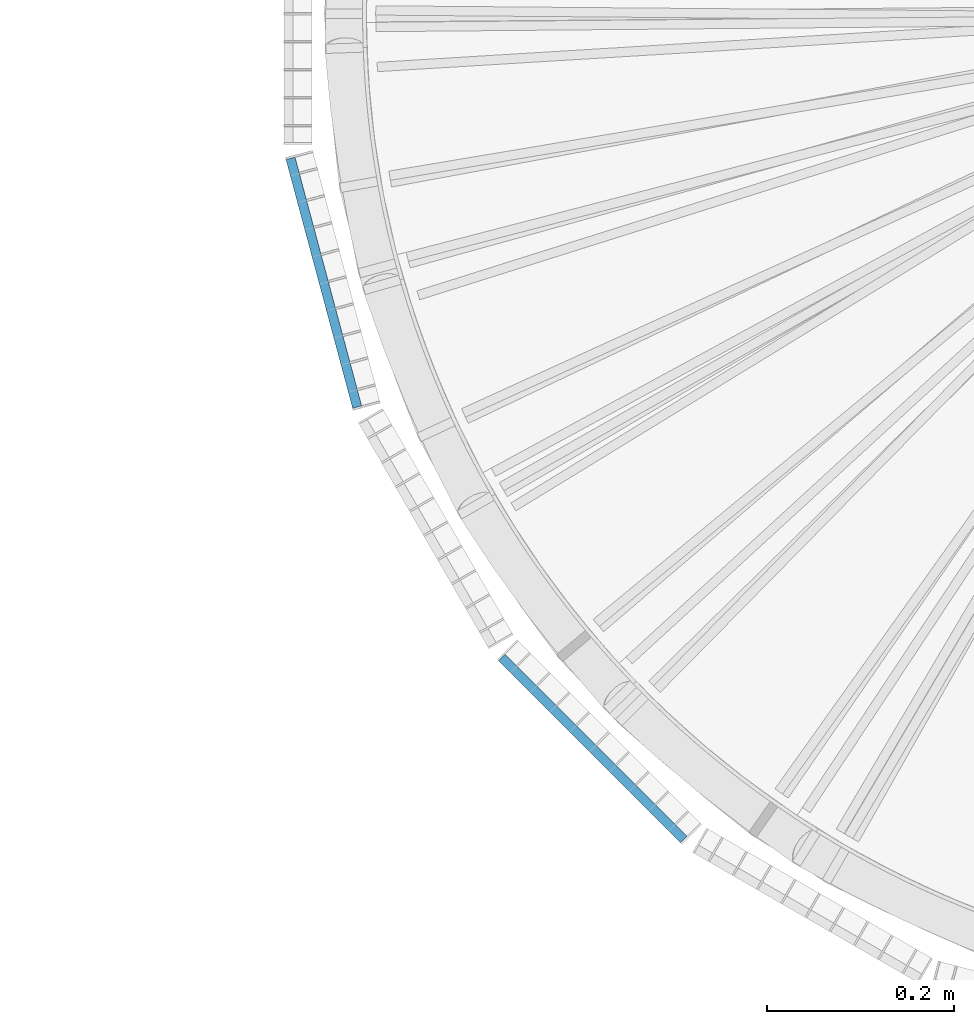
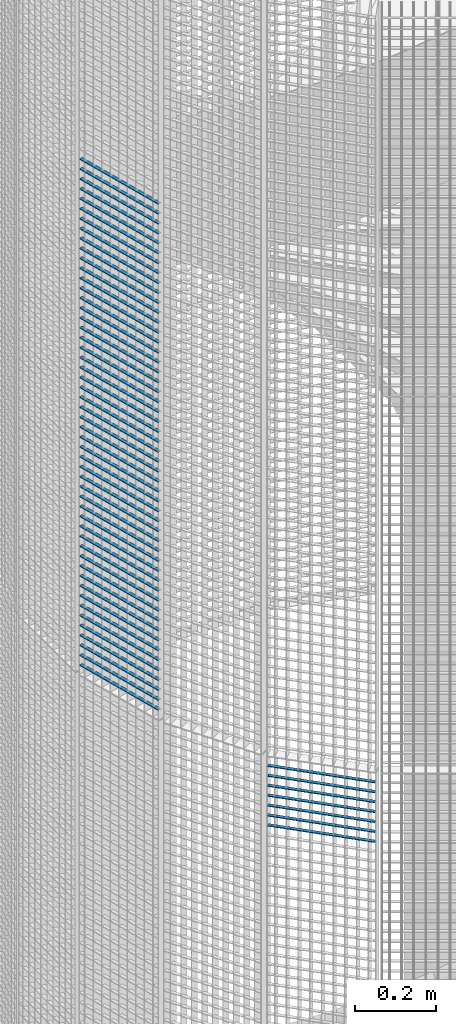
# One storey, part 127 of 1148: 59 beams, 2 elements without a shape of their own.
"""IFC2X3 building model written with IfcOpenShell, lengths in millimetres."""

from ifc_helpers import new_model, si_unit, frame, origin_with_axes, origin_2d_with_axis, place, context, subcontext, project, spatial, rectangle, extrude, material, type_object, element, aggregate, save


model = new_model("IFC2X3")

# Units and contexts
model_context = context("Model", 3, precision=1e-05, world=origin_with_axes())
body_context = subcontext(model_context, "Body", "Model", "MODEL_VIEW")
ifc_project = project(units=[si_unit("LENGTHUNIT", "METRE", prefix="MILLI"), si_unit("AREAUNIT", "SQUARE_METRE"), si_unit("VOLUMEUNIT", "CUBIC_METRE"), si_unit("MASSUNIT", "GRAM", prefix="KILO"), si_unit("TIMEUNIT", "SECOND"), si_unit("PLANEANGLEUNIT", "RADIAN"), si_unit("SOLIDANGLEUNIT", "STERADIAN"), si_unit("THERMODYNAMICTEMPERATUREUNIT", "DEGREE_CELSIUS"), si_unit("LUMINOUSINTENSITYUNIT", "LUMEN")], contexts=[model_context])

# Site, building, storey
site_placement = place(None, origin_with_axes())
site = spatial("IfcSite", under=ifc_project, at=site_placement, Name="Undefined", CompositionType="ELEMENT")
building_placement = place(site_placement, origin_with_axes())
building = spatial("IfcBuilding", under=site, at=building_placement, Name="Undefined", CompositionType="ELEMENT")
storey_placement = place(building_placement, origin_with_axes())
storey = spatial("IfcBuildingStorey", under=building, at=storey_placement, Name="Undefined", CompositionType="ELEMENT", Elevation=0.0)

# Assembly, beams
assembly_1_placement = place(storey_placement, origin_with_axes())
assembly_1 = element("IfcElementAssembly", 1, at=assembly_1_placement, inside=storey, Name="BORDURE", AssemblyPlace="NOTDEFINED", PredefinedType="NOTDEFINED")
ifc_material = material(Name="STEEL/S235JR")
beam_type = type_object("IfcBeamType", Name="PL2*10", PredefinedType="NOTDEFINED")
beam_1_placement = place(assembly_1_placement, frame((-1111.25508286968, -154.895926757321, 4560.0), z_axis=(-0.965925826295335, -0.258819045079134, 0.0), x_axis=(0.258819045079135, -0.965925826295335, 0.0)))
beam_1 = element("IfcBeam", 2, at=beam_1_placement, type_object=beam_type, material=ifc_material, Name="ENTRETOISE", context=body_context, shape_type="SweptSolid", body=[
    extrude(rectangle(XDim=2.0, YDim=10.0, at=origin_2d_with_axis()), frame((275.999999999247, 9.09494701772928e-13, 1.53210777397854e-14), z_axis=(-1.0, 0.0, 0.0), x_axis=(0.0, -1.0, 0.0)), (0.0, 0.0, 1.0), 276.0),
])
beam_2_placement = place(assembly_1_placement, frame((-1111.25508286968, -154.895926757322, 4530.0), z_axis=(-0.965925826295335, -0.258819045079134, 0.0), x_axis=(0.258819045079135, -0.965925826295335, 0.0)))
beam_2 = element("IfcBeam", 3, at=beam_2_placement, type_object=beam_type, material=ifc_material, Name="ENTRETOISE", context=body_context, shape_type="SweptSolid", body=[
    extrude(rectangle(XDim=2.0, YDim=10.0, at=origin_2d_with_axis()), frame((275.999999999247, 9.09494701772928e-13, 1.53210777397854e-14), z_axis=(-1.0, 0.0, 0.0), x_axis=(0.0, -1.0, 0.0)), (0.0, 0.0, 1.0), 276.0),
])
beam_3_placement = place(assembly_1_placement, frame((-1111.25508286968, -154.895926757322, 4500.0), z_axis=(-0.965925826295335, -0.258819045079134, 0.0), x_axis=(0.258819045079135, -0.965925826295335, 0.0)))
beam_3 = element("IfcBeam", 4, at=beam_3_placement, type_object=beam_type, material=ifc_material, Name="ENTRETOISE", context=body_context, shape_type="SweptSolid", body=[
    extrude(rectangle(XDim=2.0, YDim=10.0, at=origin_2d_with_axis()), frame((275.999999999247, 9.09494701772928e-13, 1.53210777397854e-14), z_axis=(-1.0, 0.0, 0.0), x_axis=(0.0, -1.0, 0.0)), (0.0, 0.0, 1.0), 276.0),
])
beam_4_placement = place(assembly_1_placement, frame((-1111.25508286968, -154.895926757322, 4470.0), z_axis=(-0.965925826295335, -0.258819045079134, 0.0), x_axis=(0.258819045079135, -0.965925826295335, 0.0)))
beam_4 = element("IfcBeam", 5, at=beam_4_placement, type_object=beam_type, material=ifc_material, Name="ENTRETOISE", context=body_context, shape_type="SweptSolid", body=[
    extrude(rectangle(XDim=2.0, YDim=10.0, at=origin_2d_with_axis()), frame((275.999999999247, 9.09494701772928e-13, 1.53210777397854e-14), z_axis=(-1.0, 0.0, 0.0), x_axis=(0.0, -1.0, 0.0)), (0.0, 0.0, 1.0), 276.0),
])
beam_5_placement = place(assembly_1_placement, frame((-1111.25508286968, -154.895926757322, 4440.0), z_axis=(-0.965925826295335, -0.258819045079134, 0.0), x_axis=(0.258819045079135, -0.965925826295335, 0.0)))
beam_5 = element("IfcBeam", 6, at=beam_5_placement, type_object=beam_type, material=ifc_material, Name="ENTRETOISE", context=body_context, shape_type="SweptSolid", body=[
    extrude(rectangle(XDim=2.0, YDim=10.0, at=origin_2d_with_axis()), frame((275.999999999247, 9.09494701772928e-13, 1.53210777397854e-14), z_axis=(-1.0, 0.0, 0.0), x_axis=(0.0, -1.0, 0.0)), (0.0, 0.0, 1.0), 276.0),
])
beam_6_placement = place(assembly_1_placement, frame((-1111.25508286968, -154.895926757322, 4410.0), z_axis=(-0.965925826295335, -0.258819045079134, 0.0), x_axis=(0.258819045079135, -0.965925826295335, 0.0)))
beam_6 = element("IfcBeam", 7, at=beam_6_placement, type_object=beam_type, material=ifc_material, Name="ENTRETOISE", context=body_context, shape_type="SweptSolid", body=[
    extrude(rectangle(XDim=2.0, YDim=10.0, at=origin_2d_with_axis()), frame((275.999999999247, 9.09494701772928e-13, 1.53210777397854e-14), z_axis=(-1.0, 0.0, 0.0), x_axis=(0.0, -1.0, 0.0)), (0.0, 0.0, 1.0), 276.0),
])
beam_7_placement = place(assembly_1_placement, frame((-1111.25508286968, -154.895926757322, 4380.0), z_axis=(-0.965925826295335, -0.258819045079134, 0.0), x_axis=(0.258819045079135, -0.965925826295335, 0.0)))
beam_7 = element("IfcBeam", 8, at=beam_7_placement, type_object=beam_type, material=ifc_material, Name="ENTRETOISE", context=body_context, shape_type="SweptSolid", body=[
    extrude(rectangle(XDim=2.0, YDim=10.0, at=origin_2d_with_axis()), frame((275.999999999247, 9.09494701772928e-13, 1.53210777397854e-14), z_axis=(-1.0, 0.0, 0.0), x_axis=(0.0, -1.0, 0.0)), (0.0, 0.0, 1.0), 276.0),
])
beam_8_placement = place(assembly_1_placement, frame((-1111.25508286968, -154.895926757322, 4350.0), z_axis=(-0.965925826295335, -0.258819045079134, 0.0), x_axis=(0.258819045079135, -0.965925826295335, 0.0)))
beam_8 = element("IfcBeam", 9, at=beam_8_placement, type_object=beam_type, material=ifc_material, Name="ENTRETOISE", context=body_context, shape_type="SweptSolid", body=[
    extrude(rectangle(XDim=2.0, YDim=10.0, at=origin_2d_with_axis()), frame((275.999999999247, 9.09494701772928e-13, 1.53210777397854e-14), z_axis=(-1.0, 0.0, 0.0), x_axis=(0.0, -1.0, 0.0)), (0.0, 0.0, 1.0), 276.0),
])
beam_9_placement = place(assembly_1_placement, frame((-1111.25508286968, -154.895926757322, 4320.0), z_axis=(-0.965925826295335, -0.258819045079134, 0.0), x_axis=(0.258819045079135, -0.965925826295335, 0.0)))
beam_9 = element("IfcBeam", 10, at=beam_9_placement, type_object=beam_type, material=ifc_material, Name="ENTRETOISE", context=body_context, shape_type="SweptSolid", body=[
    extrude(rectangle(XDim=2.0, YDim=10.0, at=origin_2d_with_axis()), frame((275.999999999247, 9.09494701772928e-13, 1.53210777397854e-14), z_axis=(-1.0, 0.0, 0.0), x_axis=(0.0, -1.0, 0.0)), (0.0, 0.0, 1.0), 276.0),
])
beam_10_placement = place(assembly_1_placement, frame((-1111.25508286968, -154.895926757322, 4290.0), z_axis=(-0.965925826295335, -0.258819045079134, 0.0), x_axis=(0.258819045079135, -0.965925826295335, 0.0)))
beam_10 = element("IfcBeam", 11, at=beam_10_placement, type_object=beam_type, material=ifc_material, Name="ENTRETOISE", context=body_context, shape_type="SweptSolid", body=[
    extrude(rectangle(XDim=2.0, YDim=10.0, at=origin_2d_with_axis()), frame((275.999999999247, 9.09494701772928e-13, 1.53210777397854e-14), z_axis=(-1.0, 0.0, 0.0), x_axis=(0.0, -1.0, 0.0)), (0.0, 0.0, 1.0), 276.0),
])
beam_11_placement = place(assembly_1_placement, frame((-1111.25508286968, -154.895926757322, 4260.0), z_axis=(-0.965925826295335, -0.258819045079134, 0.0), x_axis=(0.258819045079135, -0.965925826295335, 0.0)))
beam_11 = element("IfcBeam", 12, at=beam_11_placement, type_object=beam_type, material=ifc_material, Name="ENTRETOISE", context=body_context, shape_type="SweptSolid", body=[
    extrude(rectangle(XDim=2.0, YDim=10.0, at=origin_2d_with_axis()), frame((275.999999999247, 9.09494701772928e-13, 1.53210777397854e-14), z_axis=(-1.0, 0.0, 0.0), x_axis=(0.0, -1.0, 0.0)), (0.0, 0.0, 1.0), 276.0),
])
beam_12_placement = place(assembly_1_placement, frame((-1111.25508286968, -154.895926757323, 4230.0), z_axis=(-0.965925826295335, -0.258819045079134, 0.0), x_axis=(0.258819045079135, -0.965925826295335, 0.0)))
beam_12 = element("IfcBeam", 13, at=beam_12_placement, type_object=beam_type, material=ifc_material, Name="ENTRETOISE", context=body_context, shape_type="SweptSolid", body=[
    extrude(rectangle(XDim=2.0, YDim=10.0, at=origin_2d_with_axis()), frame((275.999999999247, 9.09494701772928e-13, 1.53210777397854e-14), z_axis=(-1.0, 0.0, 0.0), x_axis=(0.0, -1.0, 0.0)), (0.0, 0.0, 1.0), 276.0),
])
beam_13_placement = place(assembly_1_placement, frame((-1111.25508286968, -154.895926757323, 4200.0), z_axis=(-0.965925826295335, -0.258819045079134, 0.0), x_axis=(0.258819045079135, -0.965925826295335, 0.0)))
beam_13 = element("IfcBeam", 14, at=beam_13_placement, type_object=beam_type, material=ifc_material, Name="ENTRETOISE", context=body_context, shape_type="SweptSolid", body=[
    extrude(rectangle(XDim=2.0, YDim=10.0, at=origin_2d_with_axis()), frame((275.999999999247, 9.09494701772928e-13, 1.53210777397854e-14), z_axis=(-1.0, 0.0, 0.0), x_axis=(0.0, -1.0, 0.0)), (0.0, 0.0, 1.0), 276.0),
])
beam_14_placement = place(assembly_1_placement, frame((-1111.25508286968, -154.895926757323, 4170.0), z_axis=(-0.965925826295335, -0.258819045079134, 0.0), x_axis=(0.258819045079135, -0.965925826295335, 0.0)))
beam_14 = element("IfcBeam", 15, at=beam_14_placement, type_object=beam_type, material=ifc_material, Name="ENTRETOISE", context=body_context, shape_type="SweptSolid", body=[
    extrude(rectangle(XDim=2.0, YDim=10.0, at=origin_2d_with_axis()), frame((275.999999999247, 9.09494701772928e-13, 1.53210777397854e-14), z_axis=(-1.0, 0.0, 0.0), x_axis=(0.0, -1.0, 0.0)), (0.0, 0.0, 1.0), 276.0),
])
beam_15_placement = place(assembly_1_placement, frame((-1111.25508286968, -154.895926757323, 4140.0), z_axis=(-0.965925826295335, -0.258819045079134, 0.0), x_axis=(0.258819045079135, -0.965925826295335, 0.0)))
beam_15 = element("IfcBeam", 16, at=beam_15_placement, type_object=beam_type, material=ifc_material, Name="ENTRETOISE", context=body_context, shape_type="SweptSolid", body=[
    extrude(rectangle(XDim=2.0, YDim=10.0, at=origin_2d_with_axis()), frame((275.999999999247, 9.09494701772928e-13, 1.53210777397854e-14), z_axis=(-1.0, 0.0, 0.0), x_axis=(0.0, -1.0, 0.0)), (0.0, 0.0, 1.0), 276.0),
])
beam_16_placement = place(assembly_1_placement, frame((-1111.25508286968, -154.895926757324, 3720.0), z_axis=(-0.965925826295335, -0.258819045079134, 0.0), x_axis=(0.258819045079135, -0.965925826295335, 0.0)))
beam_16 = element("IfcBeam", 17, at=beam_16_placement, type_object=beam_type, material=ifc_material, Name="ENTRETOISE", context=body_context, shape_type="SweptSolid", body=[
    extrude(rectangle(XDim=2.0, YDim=10.0, at=origin_2d_with_axis()), frame((275.999999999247, 9.09494701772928e-13, 1.53210777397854e-14), z_axis=(-1.0, 0.0, 0.0), x_axis=(0.0, -1.0, 0.0)), (0.0, 0.0, 1.0), 276.0),
])
beam_17_placement = place(assembly_1_placement, frame((-1111.25508286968, -154.895926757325, 3690.0), z_axis=(-0.965925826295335, -0.258819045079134, 0.0), x_axis=(0.258819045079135, -0.965925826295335, 0.0)))
beam_17 = element("IfcBeam", 18, at=beam_17_placement, type_object=beam_type, material=ifc_material, Name="ENTRETOISE", context=body_context, shape_type="SweptSolid", body=[
    extrude(rectangle(XDim=2.0, YDim=10.0, at=origin_2d_with_axis()), frame((275.999999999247, 9.09494701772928e-13, 1.53210777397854e-14), z_axis=(-1.0, 0.0, 0.0), x_axis=(0.0, -1.0, 0.0)), (0.0, 0.0, 1.0), 276.0),
])
beam_18_placement = place(assembly_1_placement, frame((-1111.25508286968, -154.895926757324, 3750.0), z_axis=(-0.965925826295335, -0.258819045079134, 0.0), x_axis=(0.258819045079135, -0.965925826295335, 0.0)))
beam_18 = element("IfcBeam", 19, at=beam_18_placement, type_object=beam_type, material=ifc_material, Name="ENTRETOISE", context=body_context, shape_type="SweptSolid", body=[
    extrude(rectangle(XDim=2.0, YDim=10.0, at=origin_2d_with_axis()), frame((275.999999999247, 9.09494701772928e-13, 1.53210777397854e-14), z_axis=(-1.0, 0.0, 0.0), x_axis=(0.0, -1.0, 0.0)), (0.0, 0.0, 1.0), 276.0),
])
beam_19_placement = place(assembly_1_placement, frame((-1111.25508286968, -154.895926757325, 3660.0), z_axis=(-0.965925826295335, -0.258819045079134, 0.0), x_axis=(0.258819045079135, -0.965925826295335, 0.0)))
beam_19 = element("IfcBeam", 20, at=beam_19_placement, type_object=beam_type, material=ifc_material, Name="ENTRETOISE", context=body_context, shape_type="SweptSolid", body=[
    extrude(rectangle(XDim=2.0, YDim=10.0, at=origin_2d_with_axis()), frame((275.999999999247, 9.09494701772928e-13, 1.53210777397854e-14), z_axis=(-1.0, 0.0, 0.0), x_axis=(0.0, -1.0, 0.0)), (0.0, 0.0, 1.0), 276.0),
])
beam_20_placement = place(assembly_1_placement, frame((-1111.25508286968, -154.895926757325, 3630.0), z_axis=(-0.965925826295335, -0.258819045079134, 0.0), x_axis=(0.258819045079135, -0.965925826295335, 0.0)))
beam_20 = element("IfcBeam", 21, at=beam_20_placement, type_object=beam_type, material=ifc_material, Name="ENTRETOISE", context=body_context, shape_type="SweptSolid", body=[
    extrude(rectangle(XDim=2.0, YDim=10.0, at=origin_2d_with_axis()), frame((275.999999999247, 9.09494701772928e-13, 1.53210777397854e-14), z_axis=(-1.0, 0.0, 0.0), x_axis=(0.0, -1.0, 0.0)), (0.0, 0.0, 1.0), 276.0),
])
beam_21_placement = place(assembly_1_placement, frame((-1111.25508286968, -154.895926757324, 3780.0), z_axis=(-0.965925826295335, -0.258819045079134, 0.0), x_axis=(0.258819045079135, -0.965925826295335, 0.0)))
beam_21 = element("IfcBeam", 22, at=beam_21_placement, type_object=beam_type, material=ifc_material, Name="ENTRETOISE", context=body_context, shape_type="SweptSolid", body=[
    extrude(rectangle(XDim=2.0, YDim=10.0, at=origin_2d_with_axis()), frame((275.999999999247, 9.09494701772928e-13, 1.53210777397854e-14), z_axis=(-1.0, 0.0, 0.0), x_axis=(0.0, -1.0, 0.0)), (0.0, 0.0, 1.0), 276.0),
])
beam_22_placement = place(assembly_1_placement, frame((-1111.25508286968, -154.895926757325, 3600.0), z_axis=(-0.965925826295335, -0.258819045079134, 0.0), x_axis=(0.258819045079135, -0.965925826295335, 0.0)))
beam_22 = element("IfcBeam", 23, at=beam_22_placement, type_object=beam_type, material=ifc_material, Name="ENTRETOISE", context=body_context, shape_type="SweptSolid", body=[
    extrude(rectangle(XDim=2.0, YDim=10.0, at=origin_2d_with_axis()), frame((275.999999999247, 9.09494701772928e-13, 1.53210777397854e-14), z_axis=(-1.0, 0.0, 0.0), x_axis=(0.0, -1.0, 0.0)), (0.0, 0.0, 1.0), 276.0),
])
beam_23_placement = place(assembly_1_placement, frame((-1111.25508286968, -154.895926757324, 3810.0), z_axis=(-0.965925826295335, -0.258819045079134, 0.0), x_axis=(0.258819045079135, -0.965925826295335, 0.0)))
beam_23 = element("IfcBeam", 24, at=beam_23_placement, type_object=beam_type, material=ifc_material, Name="ENTRETOISE", context=body_context, shape_type="SweptSolid", body=[
    extrude(rectangle(XDim=2.0, YDim=10.0, at=origin_2d_with_axis()), frame((275.999999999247, 9.09494701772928e-13, 1.53210777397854e-14), z_axis=(-1.0, 0.0, 0.0), x_axis=(0.0, -1.0, 0.0)), (0.0, 0.0, 1.0), 276.0),
])
beam_24_placement = place(assembly_1_placement, frame((-1111.25508286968, -154.895926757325, 3570.0), z_axis=(-0.965925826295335, -0.258819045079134, 0.0), x_axis=(0.258819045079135, -0.965925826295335, 0.0)))
beam_24 = element("IfcBeam", 25, at=beam_24_placement, type_object=beam_type, material=ifc_material, Name="ENTRETOISE", context=body_context, shape_type="SweptSolid", body=[
    extrude(rectangle(XDim=2.0, YDim=10.0, at=origin_2d_with_axis()), frame((275.999999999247, 9.09494701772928e-13, 1.53210777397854e-14), z_axis=(-1.0, 0.0, 0.0), x_axis=(0.0, -1.0, 0.0)), (0.0, 0.0, 1.0), 276.0),
])
beam_25_placement = place(assembly_1_placement, frame((-1111.25508286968, -154.895926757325, 3540.0), z_axis=(-0.965925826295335, -0.258819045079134, 0.0), x_axis=(0.258819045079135, -0.965925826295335, 0.0)))
beam_25 = element("IfcBeam", 26, at=beam_25_placement, type_object=beam_type, material=ifc_material, Name="ENTRETOISE", context=body_context, shape_type="SweptSolid", body=[
    extrude(rectangle(XDim=2.0, YDim=10.0, at=origin_2d_with_axis()), frame((275.999999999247, 9.09494701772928e-13, 1.53210777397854e-14), z_axis=(-1.0, 0.0, 0.0), x_axis=(0.0, -1.0, 0.0)), (0.0, 0.0, 1.0), 276.0),
])
beam_26_placement = place(assembly_1_placement, frame((-1111.25508286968, -154.895926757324, 3840.0), z_axis=(-0.965925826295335, -0.258819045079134, 0.0), x_axis=(0.258819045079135, -0.965925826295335, 0.0)))
beam_26 = element("IfcBeam", 27, at=beam_26_placement, type_object=beam_type, material=ifc_material, Name="ENTRETOISE", context=body_context, shape_type="SweptSolid", body=[
    extrude(rectangle(XDim=2.0, YDim=10.0, at=origin_2d_with_axis()), frame((275.999999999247, 9.09494701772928e-13, 1.53210777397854e-14), z_axis=(-1.0, 0.0, 0.0), x_axis=(0.0, -1.0, 0.0)), (0.0, 0.0, 1.0), 276.0),
])
beam_27_placement = place(assembly_1_placement, frame((-1111.25508286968, -154.895926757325, 3510.0), z_axis=(-0.965925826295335, -0.258819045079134, 0.0), x_axis=(0.258819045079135, -0.965925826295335, 0.0)))
beam_27 = element("IfcBeam", 28, at=beam_27_placement, type_object=beam_type, material=ifc_material, Name="ENTRETOISE", context=body_context, shape_type="SweptSolid", body=[
    extrude(rectangle(XDim=2.0, YDim=10.0, at=origin_2d_with_axis()), frame((275.999999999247, 9.09494701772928e-13, 1.53210777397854e-14), z_axis=(-1.0, 0.0, 0.0), x_axis=(0.0, -1.0, 0.0)), (0.0, 0.0, 1.0), 276.0),
])
beam_28_placement = place(assembly_1_placement, frame((-1111.25508286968, -154.895926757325, 3480.0), z_axis=(-0.965925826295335, -0.258819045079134, 0.0), x_axis=(0.258819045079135, -0.965925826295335, 0.0)))
beam_28 = element("IfcBeam", 29, at=beam_28_placement, type_object=beam_type, material=ifc_material, Name="ENTRETOISE", context=body_context, shape_type="SweptSolid", body=[
    extrude(rectangle(XDim=2.0, YDim=10.0, at=origin_2d_with_axis()), frame((275.999999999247, 9.09494701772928e-13, 1.53210777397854e-14), z_axis=(-1.0, 0.0, 0.0), x_axis=(0.0, -1.0, 0.0)), (0.0, 0.0, 1.0), 276.0),
])
beam_29_placement = place(assembly_1_placement, frame((-1111.25508286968, -154.895926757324, 3870.0), z_axis=(-0.965925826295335, -0.258819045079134, 0.0), x_axis=(0.258819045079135, -0.965925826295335, 0.0)))
beam_29 = element("IfcBeam", 30, at=beam_29_placement, type_object=beam_type, material=ifc_material, Name="ENTRETOISE", context=body_context, shape_type="SweptSolid", body=[
    extrude(rectangle(XDim=2.0, YDim=10.0, at=origin_2d_with_axis()), frame((275.999999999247, 9.09494701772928e-13, 1.53210777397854e-14), z_axis=(-1.0, 0.0, 0.0), x_axis=(0.0, -1.0, 0.0)), (0.0, 0.0, 1.0), 276.0),
])
beam_30_placement = place(assembly_1_placement, frame((-1111.25508286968, -154.895926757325, 3450.0), z_axis=(-0.965925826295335, -0.258819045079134, 0.0), x_axis=(0.258819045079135, -0.965925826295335, 0.0)))
beam_30 = element("IfcBeam", 31, at=beam_30_placement, type_object=beam_type, material=ifc_material, Name="ENTRETOISE", context=body_context, shape_type="SweptSolid", body=[
    extrude(rectangle(XDim=2.0, YDim=10.0, at=origin_2d_with_axis()), frame((275.999999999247, 9.09494701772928e-13, 1.53210777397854e-14), z_axis=(-1.0, 0.0, 0.0), x_axis=(0.0, -1.0, 0.0)), (0.0, 0.0, 1.0), 276.0),
])
beam_31_placement = place(assembly_1_placement, frame((-1111.25508286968, -154.895926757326, 3420.0), z_axis=(-0.965925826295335, -0.258819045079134, 0.0), x_axis=(0.258819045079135, -0.965925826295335, 0.0)))
beam_31 = element("IfcBeam", 32, at=beam_31_placement, type_object=beam_type, material=ifc_material, Name="ENTRETOISE", context=body_context, shape_type="SweptSolid", body=[
    extrude(rectangle(XDim=2.0, YDim=10.0, at=origin_2d_with_axis()), frame((275.999999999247, 9.09494701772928e-13, 1.53210777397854e-14), z_axis=(-1.0, 0.0, 0.0), x_axis=(0.0, -1.0, 0.0)), (0.0, 0.0, 1.0), 276.0),
])
beam_32_placement = place(assembly_1_placement, frame((-1111.25508286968, -154.895926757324, 3900.0), z_axis=(-0.965925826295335, -0.258819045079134, 0.0), x_axis=(0.258819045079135, -0.965925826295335, 0.0)))
beam_32 = element("IfcBeam", 33, at=beam_32_placement, type_object=beam_type, material=ifc_material, Name="ENTRETOISE", context=body_context, shape_type="SweptSolid", body=[
    extrude(rectangle(XDim=2.0, YDim=10.0, at=origin_2d_with_axis()), frame((275.999999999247, 9.09494701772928e-13, 1.53210777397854e-14), z_axis=(-1.0, 0.0, 0.0), x_axis=(0.0, -1.0, 0.0)), (0.0, 0.0, 1.0), 276.0),
])
beam_33_placement = place(assembly_1_placement, frame((-1111.25508286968, -154.895926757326, 3390.0), z_axis=(-0.965925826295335, -0.258819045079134, 0.0), x_axis=(0.258819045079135, -0.965925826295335, 0.0)))
beam_33 = element("IfcBeam", 34, at=beam_33_placement, type_object=beam_type, material=ifc_material, Name="ENTRETOISE", context=body_context, shape_type="SweptSolid", body=[
    extrude(rectangle(XDim=2.0, YDim=10.0, at=origin_2d_with_axis()), frame((275.999999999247, 9.09494701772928e-13, 1.53210777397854e-14), z_axis=(-1.0, 0.0, 0.0), x_axis=(0.0, -1.0, 0.0)), (0.0, 0.0, 1.0), 276.0),
])
beam_34_placement = place(assembly_1_placement, frame((-1111.25508286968, -154.895926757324, 3930.0), z_axis=(-0.965925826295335, -0.258819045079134, 0.0), x_axis=(0.258819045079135, -0.965925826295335, 0.0)))
beam_34 = element("IfcBeam", 35, at=beam_34_placement, type_object=beam_type, material=ifc_material, Name="ENTRETOISE", context=body_context, shape_type="SweptSolid", body=[
    extrude(rectangle(XDim=2.0, YDim=10.0, at=origin_2d_with_axis()), frame((275.999999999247, 9.09494701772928e-13, 1.53210777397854e-14), z_axis=(-1.0, 0.0, 0.0), x_axis=(0.0, -1.0, 0.0)), (0.0, 0.0, 1.0), 276.0),
])
beam_35_placement = place(assembly_1_placement, frame((-1111.25508286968, -154.895926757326, 3360.0), z_axis=(-0.965925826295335, -0.258819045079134, 0.0), x_axis=(0.258819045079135, -0.965925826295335, 0.0)))
beam_35 = element("IfcBeam", 36, at=beam_35_placement, type_object=beam_type, material=ifc_material, Name="ENTRETOISE", context=body_context, shape_type="SweptSolid", body=[
    extrude(rectangle(XDim=2.0, YDim=10.0, at=origin_2d_with_axis()), frame((275.999999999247, 9.09494701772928e-13, 1.53210777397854e-14), z_axis=(-1.0, 0.0, 0.0), x_axis=(0.0, -1.0, 0.0)), (0.0, 0.0, 1.0), 276.0),
])
beam_36_placement = place(assembly_1_placement, frame((-1111.25508286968, -154.895926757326, 3330.0), z_axis=(-0.965925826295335, -0.258819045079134, 0.0), x_axis=(0.258819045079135, -0.965925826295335, 0.0)))
beam_36 = element("IfcBeam", 37, at=beam_36_placement, type_object=beam_type, material=ifc_material, Name="ENTRETOISE", context=body_context, shape_type="SweptSolid", body=[
    extrude(rectangle(XDim=2.0, YDim=10.0, at=origin_2d_with_axis()), frame((275.999999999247, 9.09494701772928e-13, 1.53210777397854e-14), z_axis=(-1.0, 0.0, 0.0), x_axis=(0.0, -1.0, 0.0)), (0.0, 0.0, 1.0), 276.0),
])
beam_37_placement = place(assembly_1_placement, frame((-1111.25508286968, -154.895926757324, 3960.0), z_axis=(-0.965925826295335, -0.258819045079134, 0.0), x_axis=(0.258819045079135, -0.965925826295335, 0.0)))
beam_37 = element("IfcBeam", 38, at=beam_37_placement, type_object=beam_type, material=ifc_material, Name="ENTRETOISE", context=body_context, shape_type="SweptSolid", body=[
    extrude(rectangle(XDim=2.0, YDim=10.0, at=origin_2d_with_axis()), frame((275.999999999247, 9.09494701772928e-13, 1.53210777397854e-14), z_axis=(-1.0, 0.0, 0.0), x_axis=(0.0, -1.0, 0.0)), (0.0, 0.0, 1.0), 276.0),
])
beam_38_placement = place(assembly_1_placement, frame((-1111.25508286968, -154.895926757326, 3300.0), z_axis=(-0.965925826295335, -0.258819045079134, 0.0), x_axis=(0.258819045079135, -0.965925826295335, 0.0)))
beam_38 = element("IfcBeam", 39, at=beam_38_placement, type_object=beam_type, material=ifc_material, Name="ENTRETOISE", context=body_context, shape_type="SweptSolid", body=[
    extrude(rectangle(XDim=2.0, YDim=10.0, at=origin_2d_with_axis()), frame((275.999999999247, 9.09494701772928e-13, 1.53210777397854e-14), z_axis=(-1.0, 0.0, 0.0), x_axis=(0.0, -1.0, 0.0)), (0.0, 0.0, 1.0), 276.0),
])
beam_39_placement = place(assembly_1_placement, frame((-1111.25508286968, -154.895926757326, 3270.0), z_axis=(-0.965925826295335, -0.258819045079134, 0.0), x_axis=(0.258819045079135, -0.965925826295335, 0.0)))
beam_39 = element("IfcBeam", 40, at=beam_39_placement, type_object=beam_type, material=ifc_material, Name="ENTRETOISE", context=body_context, shape_type="SweptSolid", body=[
    extrude(rectangle(XDim=2.0, YDim=10.0, at=origin_2d_with_axis()), frame((275.999999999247, 9.09494701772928e-13, 1.53210777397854e-14), z_axis=(-1.0, 0.0, 0.0), x_axis=(0.0, -1.0, 0.0)), (0.0, 0.0, 1.0), 276.0),
])
beam_40_placement = place(assembly_1_placement, frame((-1111.25508286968, -154.895926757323, 3990.0), z_axis=(-0.965925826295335, -0.258819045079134, 0.0), x_axis=(0.258819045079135, -0.965925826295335, 0.0)))
beam_40 = element("IfcBeam", 41, at=beam_40_placement, type_object=beam_type, material=ifc_material, Name="ENTRETOISE", context=body_context, shape_type="SweptSolid", body=[
    extrude(rectangle(XDim=2.0, YDim=10.0, at=origin_2d_with_axis()), frame((275.999999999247, 9.09494701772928e-13, 1.53210777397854e-14), z_axis=(-1.0, 0.0, 0.0), x_axis=(0.0, -1.0, 0.0)), (0.0, 0.0, 1.0), 276.0),
])
beam_41_placement = place(assembly_1_placement, frame((-1111.25508286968, -154.895926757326, 3240.0), z_axis=(-0.965925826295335, -0.258819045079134, 0.0), x_axis=(0.258819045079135, -0.965925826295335, 0.0)))
beam_41 = element("IfcBeam", 42, at=beam_41_placement, type_object=beam_type, material=ifc_material, Name="ENTRETOISE", context=body_context, shape_type="SweptSolid", body=[
    extrude(rectangle(XDim=2.0, YDim=10.0, at=origin_2d_with_axis()), frame((275.999999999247, 9.09494701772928e-13, 1.53210777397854e-14), z_axis=(-1.0, 0.0, 0.0), x_axis=(0.0, -1.0, 0.0)), (0.0, 0.0, 1.0), 276.0),
])
beam_42_placement = place(assembly_1_placement, frame((-1111.25508286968, -154.895926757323, 4020.0), z_axis=(-0.965925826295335, -0.258819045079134, 0.0), x_axis=(0.258819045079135, -0.965925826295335, 0.0)))
beam_42 = element("IfcBeam", 43, at=beam_42_placement, type_object=beam_type, material=ifc_material, Name="ENTRETOISE", context=body_context, shape_type="SweptSolid", body=[
    extrude(rectangle(XDim=2.0, YDim=10.0, at=origin_2d_with_axis()), frame((275.999999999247, 9.09494701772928e-13, 1.53210777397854e-14), z_axis=(-1.0, 0.0, 0.0), x_axis=(0.0, -1.0, 0.0)), (0.0, 0.0, 1.0), 276.0),
])
beam_43_placement = place(assembly_1_placement, frame((-1111.25508286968, -154.895926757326, 3210.0), z_axis=(-0.965925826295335, -0.258819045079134, 0.0), x_axis=(0.258819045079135, -0.965925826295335, 0.0)))
beam_43 = element("IfcBeam", 44, at=beam_43_placement, type_object=beam_type, material=ifc_material, Name="ENTRETOISE", context=body_context, shape_type="SweptSolid", body=[
    extrude(rectangle(XDim=2.0, YDim=10.0, at=origin_2d_with_axis()), frame((275.999999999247, 9.09494701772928e-13, 1.53210777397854e-14), z_axis=(-1.0, 0.0, 0.0), x_axis=(0.0, -1.0, 0.0)), (0.0, 0.0, 1.0), 276.0),
])
beam_44_placement = place(assembly_1_placement, frame((-1111.25508286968, -154.895926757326, 3180.0), z_axis=(-0.965925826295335, -0.258819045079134, 0.0), x_axis=(0.258819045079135, -0.965925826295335, 0.0)))
beam_44 = element("IfcBeam", 45, at=beam_44_placement, type_object=beam_type, material=ifc_material, Name="ENTRETOISE", context=body_context, shape_type="SweptSolid", body=[
    extrude(rectangle(XDim=2.0, YDim=10.0, at=origin_2d_with_axis()), frame((275.999999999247, 9.09494701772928e-13, 1.53210777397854e-14), z_axis=(-1.0, 0.0, 0.0), x_axis=(0.0, -1.0, 0.0)), (0.0, 0.0, 1.0), 276.0),
])
beam_45_placement = place(assembly_1_placement, frame((-1111.25508286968, -154.895926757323, 4050.0), z_axis=(-0.965925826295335, -0.258819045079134, 0.0), x_axis=(0.258819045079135, -0.965925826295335, 0.0)))
beam_45 = element("IfcBeam", 46, at=beam_45_placement, type_object=beam_type, material=ifc_material, Name="ENTRETOISE", context=body_context, shape_type="SweptSolid", body=[
    extrude(rectangle(XDim=2.0, YDim=10.0, at=origin_2d_with_axis()), frame((275.999999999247, 9.09494701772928e-13, 1.53210777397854e-14), z_axis=(-1.0, 0.0, 0.0), x_axis=(0.0, -1.0, 0.0)), (0.0, 0.0, 1.0), 276.0),
])
beam_46_placement = place(assembly_1_placement, frame((-1111.25508286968, -154.895926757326, 3150.0), z_axis=(-0.965925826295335, -0.258819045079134, 0.0), x_axis=(0.258819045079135, -0.965925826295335, 0.0)))
beam_46 = element("IfcBeam", 47, at=beam_46_placement, type_object=beam_type, material=ifc_material, Name="ENTRETOISE", context=body_context, shape_type="SweptSolid", body=[
    extrude(rectangle(XDim=2.0, YDim=10.0, at=origin_2d_with_axis()), frame((275.999999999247, 9.09494701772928e-13, 1.53210777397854e-14), z_axis=(-1.0, 0.0, 0.0), x_axis=(0.0, -1.0, 0.0)), (0.0, 0.0, 1.0), 276.0),
])
beam_47_placement = place(assembly_1_placement, frame((-1111.25508286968, -154.895926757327, 3120.0), z_axis=(-0.965925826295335, -0.258819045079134, 0.0), x_axis=(0.258819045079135, -0.965925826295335, 0.0)))
beam_47 = element("IfcBeam", 48, at=beam_47_placement, type_object=beam_type, material=ifc_material, Name="ENTRETOISE", context=body_context, shape_type="SweptSolid", body=[
    extrude(rectangle(XDim=2.0, YDim=10.0, at=origin_2d_with_axis()), frame((275.999999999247, 9.09494701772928e-13, 1.53210777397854e-14), z_axis=(-1.0, 0.0, 0.0), x_axis=(0.0, -1.0, 0.0)), (0.0, 0.0, 1.0), 276.0),
])
beam_48_placement = place(assembly_1_placement, frame((-1111.25508286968, -154.895926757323, 4080.0), z_axis=(-0.965925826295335, -0.258819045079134, 0.0), x_axis=(0.258819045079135, -0.965925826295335, 0.0)))
beam_48 = element("IfcBeam", 49, at=beam_48_placement, type_object=beam_type, material=ifc_material, Name="ENTRETOISE", context=body_context, shape_type="SweptSolid", body=[
    extrude(rectangle(XDim=2.0, YDim=10.0, at=origin_2d_with_axis()), frame((275.999999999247, 9.09494701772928e-13, 1.53210777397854e-14), z_axis=(-1.0, 0.0, 0.0), x_axis=(0.0, -1.0, 0.0)), (0.0, 0.0, 1.0), 276.0),
])
beam_49_placement = place(assembly_1_placement, frame((-1111.25508286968, -154.895926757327, 3090.0), z_axis=(-0.965925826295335, -0.258819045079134, 0.0), x_axis=(0.258819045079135, -0.965925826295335, 0.0)))
beam_49 = element("IfcBeam", 50, at=beam_49_placement, type_object=beam_type, material=ifc_material, Name="ENTRETOISE", context=body_context, shape_type="SweptSolid", body=[
    extrude(rectangle(XDim=2.0, YDim=10.0, at=origin_2d_with_axis()), frame((275.999999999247, 9.09494701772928e-13, 1.53210777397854e-14), z_axis=(-1.0, 0.0, 0.0), x_axis=(0.0, -1.0, 0.0)), (0.0, 0.0, 1.0), 276.0),
])
beam_50_placement = place(assembly_1_placement, frame((-1111.25508286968, -154.895926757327, 3060.0), z_axis=(-0.965925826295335, -0.258819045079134, 0.0), x_axis=(0.258819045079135, -0.965925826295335, 0.0)))
beam_50 = element("IfcBeam", 51, at=beam_50_placement, type_object=beam_type, material=ifc_material, Name="ENTRETOISE", context=body_context, shape_type="SweptSolid", body=[
    extrude(rectangle(XDim=2.0, YDim=10.0, at=origin_2d_with_axis()), frame((275.999999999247, 9.09494701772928e-13, 1.53210777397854e-14), z_axis=(-1.0, 0.0, 0.0), x_axis=(0.0, -1.0, 0.0)), (0.0, 0.0, 1.0), 276.0),
])
beam_51_placement = place(assembly_1_placement, frame((-1111.25508286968, -154.895926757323, 4110.0), z_axis=(-0.965925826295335, -0.258819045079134, 0.0), x_axis=(0.258819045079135, -0.965925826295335, 0.0)))
beam_51 = element("IfcBeam", 52, at=beam_51_placement, type_object=beam_type, material=ifc_material, Name="ENTRETOISE", context=body_context, shape_type="SweptSolid", body=[
    extrude(rectangle(XDim=2.0, YDim=10.0, at=origin_2d_with_axis()), frame((275.999999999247, 9.09494701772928e-13, 1.53210777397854e-14), z_axis=(-1.0, 0.0, 0.0), x_axis=(0.0, -1.0, 0.0)), (0.0, 0.0, 1.0), 276.0),
])
beam_52_placement = place(assembly_1_placement, frame((-1111.25508286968, -154.895926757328, 3030.0), z_axis=(-0.965925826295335, -0.258819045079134, 0.0), x_axis=(0.258819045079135, -0.965925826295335, 0.0)))
beam_52 = element("IfcBeam", 53, at=beam_52_placement, type_object=beam_type, material=ifc_material, Name="ENTRETOISE", context=body_context, shape_type="SweptSolid", body=[
    extrude(rectangle(XDim=2.0, YDim=10.0, at=origin_2d_with_axis()), frame((275.999999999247, 9.09494701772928e-13, 1.53210777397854e-14), z_axis=(-1.0, 0.0, 0.0), x_axis=(0.0, -1.0, 0.0)), (0.0, 0.0, 1.0), 276.0),
])
aggregate(assembly_1, [beam_1, beam_2, beam_3, beam_4, beam_5, beam_6, beam_7, beam_8, beam_9, beam_10, beam_11, beam_12, beam_13, beam_14, beam_15, beam_16, beam_17, beam_18, beam_19, beam_20, beam_21, beam_22, beam_23, beam_24, beam_25, beam_26, beam_27, beam_28, beam_29, beam_30, beam_31, beam_32, beam_33, beam_34, beam_35, beam_36, beam_37, beam_38, beam_39, beam_40, beam_41, beam_42, beam_43, beam_44, beam_45, beam_46, beam_47, beam_48, beam_49, beam_50, beam_51, beam_52])

assembly_2_placement = place(storey_placement, origin_with_axes())
assembly_2 = element("IfcElementAssembly", 54, at=assembly_2_placement, inside=storey, Name="BORDURE", AssemblyPlace="NOTDEFINED", PredefinedType="NOTDEFINED")
beam_53_placement = place(assembly_2_placement, frame((-884.927168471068, -689.771348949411, 2970.0), z_axis=(-0.70710678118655, -0.707106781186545, 0.0), x_axis=(0.707106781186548, -0.707106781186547, 0.0)))
beam_53 = element("IfcBeam", 55, at=beam_53_placement, type_object=beam_type, material=ifc_material, Name="ENTRETOISE", context=body_context, shape_type="SweptSolid", body=[
    extrude(rectangle(XDim=2.0, YDim=10.0, at=origin_2d_with_axis()), frame((275.999999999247, 9.09494701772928e-13, 1.53210777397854e-14), z_axis=(-1.0, 0.0, 0.0), x_axis=(0.0, -1.0, 0.0)), (0.0, 0.0, 1.0), 276.0),
])
beam_54_placement = place(assembly_2_placement, frame((-884.927168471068, -689.771348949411, 2940.0), z_axis=(-0.70710678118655, -0.707106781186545, 0.0), x_axis=(0.707106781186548, -0.707106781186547, 0.0)))
beam_54 = element("IfcBeam", 56, at=beam_54_placement, type_object=beam_type, material=ifc_material, Name="ENTRETOISE", context=body_context, shape_type="SweptSolid", body=[
    extrude(rectangle(XDim=2.0, YDim=10.0, at=origin_2d_with_axis()), frame((275.999999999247, 9.09494701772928e-13, 1.53210777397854e-14), z_axis=(-1.0, 0.0, 0.0), x_axis=(0.0, -1.0, 0.0)), (0.0, 0.0, 1.0), 276.0),
])
beam_55_placement = place(assembly_2_placement, frame((-884.927168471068, -689.771348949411, 2910.0), z_axis=(-0.70710678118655, -0.707106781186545, 0.0), x_axis=(0.707106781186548, -0.707106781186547, 0.0)))
beam_55 = element("IfcBeam", 57, at=beam_55_placement, type_object=beam_type, material=ifc_material, Name="ENTRETOISE", context=body_context, shape_type="SweptSolid", body=[
    extrude(rectangle(XDim=2.0, YDim=10.0, at=origin_2d_with_axis()), frame((275.999999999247, 9.09494701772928e-13, 1.53210777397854e-14), z_axis=(-1.0, 0.0, 0.0), x_axis=(0.0, -1.0, 0.0)), (0.0, 0.0, 1.0), 276.0),
])
beam_56_placement = place(assembly_2_placement, frame((-884.927168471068, -689.771348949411, 2880.0), z_axis=(-0.70710678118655, -0.707106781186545, 0.0), x_axis=(0.707106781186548, -0.707106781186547, 0.0)))
beam_56 = element("IfcBeam", 58, at=beam_56_placement, type_object=beam_type, material=ifc_material, Name="ENTRETOISE", context=body_context, shape_type="SweptSolid", body=[
    extrude(rectangle(XDim=2.0, YDim=10.0, at=origin_2d_with_axis()), frame((275.999999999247, 9.09494701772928e-13, 1.53210777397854e-14), z_axis=(-1.0, 0.0, 0.0), x_axis=(0.0, -1.0, 0.0)), (0.0, 0.0, 1.0), 276.0),
])
beam_57_placement = place(assembly_2_placement, frame((-884.927168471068, -689.771348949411, 2850.0), z_axis=(-0.70710678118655, -0.707106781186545, 0.0), x_axis=(0.707106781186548, -0.707106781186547, 0.0)))
beam_57 = element("IfcBeam", 59, at=beam_57_placement, type_object=beam_type, material=ifc_material, Name="ENTRETOISE", context=body_context, shape_type="SweptSolid", body=[
    extrude(rectangle(XDim=2.0, YDim=10.0, at=origin_2d_with_axis()), frame((275.999999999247, 9.09494701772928e-13, 1.53210777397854e-14), z_axis=(-1.0, 0.0, 0.0), x_axis=(0.0, -1.0, 0.0)), (0.0, 0.0, 1.0), 276.0),
])
beam_58_placement = place(assembly_2_placement, frame((-884.927168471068, -689.771348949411, 2820.0), z_axis=(-0.70710678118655, -0.707106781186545, 0.0), x_axis=(0.707106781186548, -0.707106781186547, 0.0)))
beam_58 = element("IfcBeam", 60, at=beam_58_placement, type_object=beam_type, material=ifc_material, Name="ENTRETOISE", context=body_context, shape_type="SweptSolid", body=[
    extrude(rectangle(XDim=2.0, YDim=10.0, at=origin_2d_with_axis()), frame((275.999999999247, 9.09494701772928e-13, 1.53210777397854e-14), z_axis=(-1.0, 0.0, 0.0), x_axis=(0.0, -1.0, 0.0)), (0.0, 0.0, 1.0), 276.0),
])
beam_59_placement = place(assembly_2_placement, frame((-884.927168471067, -689.771348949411, 2790.0), z_axis=(-0.70710678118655, -0.707106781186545, 0.0), x_axis=(0.707106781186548, -0.707106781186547, 0.0)))
beam_59 = element("IfcBeam", 61, at=beam_59_placement, type_object=beam_type, material=ifc_material, Name="ENTRETOISE", context=body_context, shape_type="SweptSolid", body=[
    extrude(rectangle(XDim=2.0, YDim=10.0, at=origin_2d_with_axis()), frame((275.999999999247, 9.09494701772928e-13, 1.53210777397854e-14), z_axis=(-1.0, 0.0, 0.0), x_axis=(0.0, -1.0, 0.0)), (0.0, 0.0, 1.0), 276.0),
])
aggregate(assembly_2, [beam_53, beam_54, beam_55, beam_56, beam_57, beam_58, beam_59])

save(model, "model.ifc")
